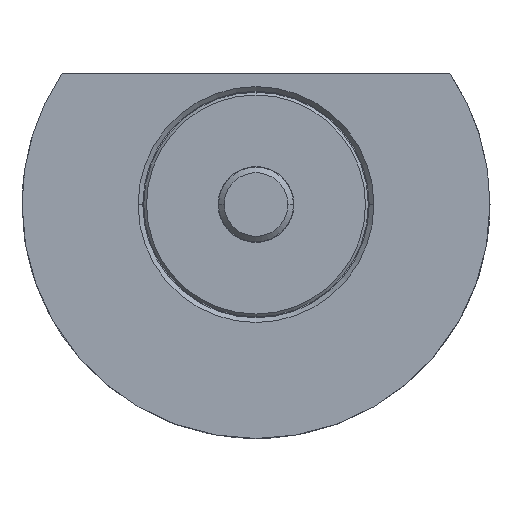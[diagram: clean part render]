
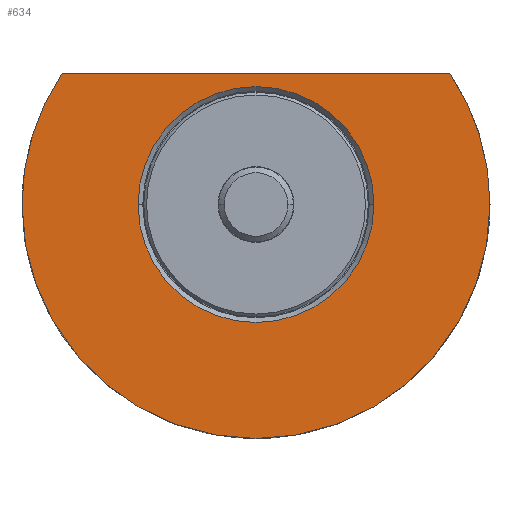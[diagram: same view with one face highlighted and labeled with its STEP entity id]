
A CAD part, front view. The second image highlights one B-rep face of the part: STEP entity #634.
In plain terms, the highlighted planar face has unit normal (0, -1, 0).
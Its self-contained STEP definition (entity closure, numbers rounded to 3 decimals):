
#72 = DIRECTION ( 'NONE',  ( 0., 1., 0. ) ) ;
#119 = VERTEX_POINT ( 'NONE', #2094 ) ;
#127 = CARTESIAN_POINT ( 'NONE',  ( 0., -12., 0. ) ) ;
#133 = ORIENTED_EDGE ( 'NONE', *, *, #1294, .F. ) ;
#143 = CARTESIAN_POINT ( 'NONE',  ( 0., -12., 0. ) ) ;
#170 = DIRECTION ( 'NONE',  ( -1., 0., 0. ) ) ;
#189 = FACE_OUTER_BOUND ( 'NONE', #1865, .T. ) ;
#221 = CARTESIAN_POINT ( 'NONE',  ( -20.712, -12., 14. ) ) ;
#316 = DIRECTION ( 'NONE',  ( 0., 1., 0. ) ) ;
#371 = LINE ( 'NONE', #407, #2472 ) ;
#407 = CARTESIAN_POINT ( 'NONE',  ( -12.6, -12., 14. ) ) ;
#429 = DIRECTION ( 'NONE',  ( -1., 0., 0. ) ) ;
#447 = CIRCLE ( 'NONE', #1619, 25. ) ;
#580 = CARTESIAN_POINT ( 'NONE',  ( 25., -12., 0. ) ) ;
#628 = VERTEX_POINT ( 'NONE', #221 ) ;
#634 = ADVANCED_FACE ( 'NONE', ( #1759, #189 ), #1782, .T. ) ;
#680 = DIRECTION ( 'NONE',  ( -1., 0., 0. ) ) ;
#712 = DIRECTION ( 'NONE',  ( -1., 0., 0. ) ) ;
#742 = AXIS2_PLACEMENT_3D ( 'NONE', #2020, #1674, #680 ) ;
#828 = ORIENTED_EDGE ( 'NONE', *, *, #894, .F. ) ;
#830 = CIRCLE ( 'NONE', #1243, 12.6 ) ;
#846 = VERTEX_POINT ( 'NONE', #1286 ) ;
#884 = VERTEX_POINT ( 'NONE', #2301 ) ;
#894 = EDGE_CURVE ( 'NONE', #1173, #119, #1543, .T. ) ;
#912 = CIRCLE ( 'NONE', #1320, 25. ) ;
#999 = ORIENTED_EDGE ( 'NONE', *, *, #1400, .T. ) ;
#1057 = ORIENTED_EDGE ( 'NONE', *, *, #1375, .T. ) ;
#1061 = CARTESIAN_POINT ( 'NONE',  ( 0., -12., 0. ) ) ;
#1119 = EDGE_CURVE ( 'NONE', #884, #628, #371, .T. ) ;
#1126 = AXIS2_PLACEMENT_3D ( 'NONE', #143, #316, #712 ) ;
#1127 = DIRECTION ( 'NONE',  ( 0., 1., 0. ) ) ;
#1173 = VERTEX_POINT ( 'NONE', #580 ) ;
#1196 = DIRECTION ( 'NONE',  ( 0., -1., 0. ) ) ;
#1243 = AXIS2_PLACEMENT_3D ( 'NONE', #127, #1127, #170 ) ;
#1286 = CARTESIAN_POINT ( 'NONE',  ( 12.6, -12., 0. ) ) ;
#1294 = EDGE_CURVE ( 'NONE', #119, #628, #912, .T. ) ;
#1295 = DIRECTION ( 'NONE',  ( -1., 0., 0. ) ) ;
#1320 = AXIS2_PLACEMENT_3D ( 'NONE', #2213, #72, #1295 ) ;
#1375 = EDGE_CURVE ( 'NONE', #1425, #846, #2188, .T. ) ;
#1400 = EDGE_CURVE ( 'NONE', #846, #1425, #830, .T. ) ;
#1425 = VERTEX_POINT ( 'NONE', #1967 ) ;
#1543 = CIRCLE ( 'NONE', #1126, 25. ) ;
#1559 = ORIENTED_EDGE ( 'NONE', *, *, #1119, .T. ) ;
#1600 = DIRECTION ( 'NONE',  ( 1., 0., 0. ) ) ;
#1619 = AXIS2_PLACEMENT_3D ( 'NONE', #1061, #2021, #429 ) ;
#1674 = DIRECTION ( 'NONE',  ( 0., 1., 0. ) ) ;
#1759 = FACE_BOUND ( 'NONE', #2494, .T. ) ;
#1763 = ORIENTED_EDGE ( 'NONE', *, *, #2361, .F. ) ;
#1782 = PLANE ( 'NONE',  #1951 ) ;
#1865 = EDGE_LOOP ( 'NONE', ( #1763, #1559, #133, #828 ) ) ;
#1951 = AXIS2_PLACEMENT_3D ( 'NONE', #2155, #1196, #1600 ) ;
#1967 = CARTESIAN_POINT ( 'NONE',  ( -12.6, -12., 0. ) ) ;
#1982 = DIRECTION ( 'NONE',  ( -1., 0., 0. ) ) ;
#2020 = CARTESIAN_POINT ( 'NONE',  ( 0., -12., 0. ) ) ;
#2021 = DIRECTION ( 'NONE',  ( 0., 1., 0. ) ) ;
#2094 = CARTESIAN_POINT ( 'NONE',  ( -25., -12., 0. ) ) ;
#2155 = CARTESIAN_POINT ( 'NONE',  ( -12.6, -12., 0. ) ) ;
#2188 = CIRCLE ( 'NONE', #742, 12.6 ) ;
#2213 = CARTESIAN_POINT ( 'NONE',  ( 0., -12., 0. ) ) ;
#2301 = CARTESIAN_POINT ( 'NONE',  ( 20.712, -12., 14. ) ) ;
#2361 = EDGE_CURVE ( 'NONE', #884, #1173, #447, .T. ) ;
#2472 = VECTOR ( 'NONE', #1982, 1000. ) ;
#2494 = EDGE_LOOP ( 'NONE', ( #999, #1057 ) ) ;
